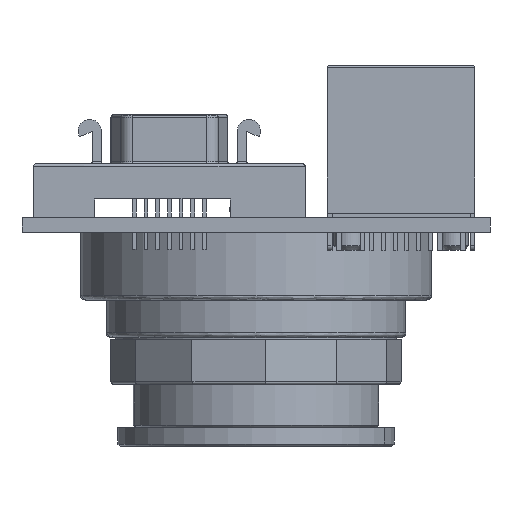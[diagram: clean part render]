
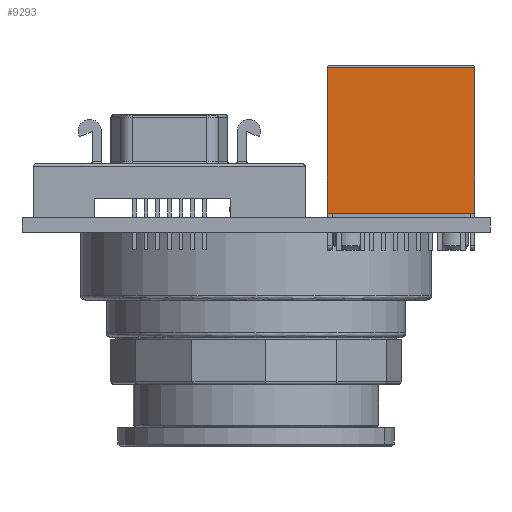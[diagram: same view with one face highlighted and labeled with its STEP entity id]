
A CAD part, front view. The second image highlights one B-rep face of the part: STEP entity #9293.
In plain terms, the highlighted planar face has unit normal (0, -1, 0).
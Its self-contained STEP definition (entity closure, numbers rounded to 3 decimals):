
#1936 = ORIENTED_EDGE ( 'NONE', *, *, #27189, .T. ) ;
#2080 = VERTEX_POINT ( 'NONE', #11277 ) ;
#3839 = LINE ( 'NONE', #36670, #25885 ) ;
#4710 = DIRECTION ( 'NONE',  ( 0., 0., -1. ) ) ;
#5480 = DIRECTION ( 'NONE',  ( -1., 0., 0. ) ) ;
#5545 = DIRECTION ( 'NONE',  ( 0., 1., 0. ) ) ;
#5603 = CARTESIAN_POINT ( 'NONE',  ( -8.001, -6.604, 12.954 ) ) ;
#6061 = PLANE ( 'NONE',  #27642 ) ;
#9293 = ADVANCED_FACE ( 'NONE', ( #39697 ), #6061, .F. ) ;
#9376 = CARTESIAN_POINT ( 'NONE',  ( -8.001, -6.604, 12.954 ) ) ;
#11277 = CARTESIAN_POINT ( 'NONE',  ( 8.001, -6.604, 15.748 ) ) ;
#11858 = EDGE_CURVE ( 'NONE', #2080, #23186, #3839, .T. ) ;
#16188 = CARTESIAN_POINT ( 'NONE',  ( -8.001, -6.604, 15.748 ) ) ;
#17400 = CARTESIAN_POINT ( 'NONE',  ( -8.001, -6.604, 0. ) ) ;
#18018 = LINE ( 'NONE', #9376, #41156 ) ;
#18900 = VERTEX_POINT ( 'NONE', #17400 ) ;
#23186 = VERTEX_POINT ( 'NONE', #53213 ) ;
#24021 = CARTESIAN_POINT ( 'NONE',  ( -8.001, -6.604, 0. ) ) ;
#24616 = LINE ( 'NONE', #40384, #46314 ) ;
#25035 = VERTEX_POINT ( 'NONE', #16188 ) ;
#25885 = VECTOR ( 'NONE', #36548, 1000. ) ;
#27189 = EDGE_CURVE ( 'NONE', #18900, #23186, #28398, .T. ) ;
#27642 = AXIS2_PLACEMENT_3D ( 'NONE', #5603, #5545, #5480 ) ;
#28398 = LINE ( 'NONE', #24021, #50010 ) ;
#36548 = DIRECTION ( 'NONE',  ( 0., 0., -1. ) ) ;
#36670 = CARTESIAN_POINT ( 'NONE',  ( 8.001, -6.604, 12.954 ) ) ;
#37127 = DIRECTION ( 'NONE',  ( 1., 0., 0. ) ) ;
#39697 = FACE_OUTER_BOUND ( 'NONE', #41071, .T. ) ;
#40306 = ORIENTED_EDGE ( 'NONE', *, *, #45135, .F. ) ;
#40384 = CARTESIAN_POINT ( 'NONE',  ( -8.001, -6.604, 15.748 ) ) ;
#41071 = EDGE_LOOP ( 'NONE', ( #40306, #42317, #1936, #52402 ) ) ;
#41156 = VECTOR ( 'NONE', #4710, 1000. ) ;
#42317 = ORIENTED_EDGE ( 'NONE', *, *, #52075, .T. ) ;
#44696 = DIRECTION ( 'NONE',  ( 1., 0., 0. ) ) ;
#45135 = EDGE_CURVE ( 'NONE', #25035, #2080, #24616, .T. ) ;
#46314 = VECTOR ( 'NONE', #44696, 1000. ) ;
#50010 = VECTOR ( 'NONE', #37127, 1000. ) ;
#52075 = EDGE_CURVE ( 'NONE', #25035, #18900, #18018, .T. ) ;
#52402 = ORIENTED_EDGE ( 'NONE', *, *, #11858, .F. ) ;
#53213 = CARTESIAN_POINT ( 'NONE',  ( 8.001, -6.604, 0. ) ) ;
